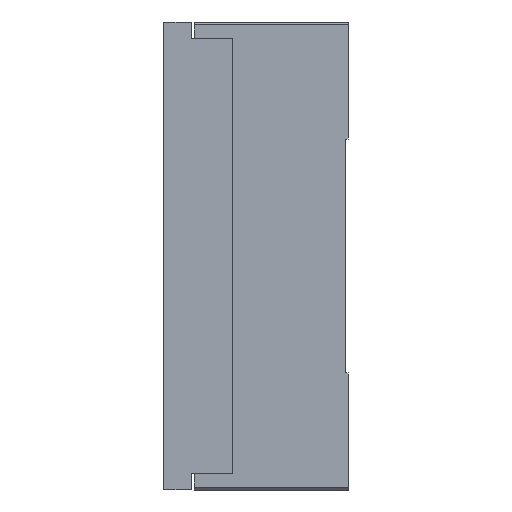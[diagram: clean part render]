
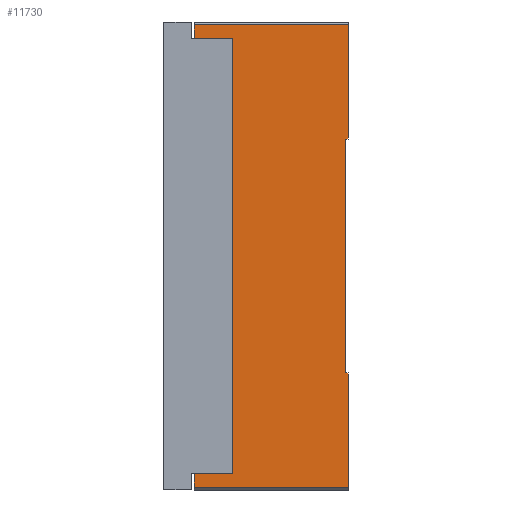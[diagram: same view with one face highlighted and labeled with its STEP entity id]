
A CAD part, left-side view. The second image highlights one B-rep face of the part: STEP entity #11730.
In plain terms, the highlighted planar face has unit normal (-1, 0, 0).
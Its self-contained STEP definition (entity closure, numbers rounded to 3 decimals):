
#22 = VERTEX_POINT ( 'NONE', #16990 ) ;
#519 = LINE ( 'NONE', #2696, #25784 ) ;
#847 = VECTOR ( 'NONE', #24098, 1000. ) ;
#1894 = FACE_OUTER_BOUND ( 'NONE', #25948, .T. ) ;
#2320 = DIRECTION ( 'NONE',  ( 0., 0., -1. ) ) ;
#2322 = ORIENTED_EDGE ( 'NONE', *, *, #39132, .F. ) ;
#2410 = CARTESIAN_POINT ( 'NONE',  ( -132.5, 42., 69. ) ) ;
#2642 = CARTESIAN_POINT ( 'NONE',  ( -132.5, 42., -79. ) ) ;
#2696 = CARTESIAN_POINT ( 'NONE',  ( -132.5, 56., 84. ) ) ;
#3196 = AXIS2_PLACEMENT_3D ( 'NONE', #27997, #27921, #27868 ) ;
#3669 = LINE ( 'NONE', #13778, #20327 ) ;
#4273 = LINE ( 'NONE', #23936, #847 ) ;
#4466 = DIRECTION ( 'NONE',  ( 0., -1., 0. ) ) ;
#4651 = VECTOR ( 'NONE', #15386, 1000. ) ;
#4965 = EDGE_CURVE ( 'NONE', #36391, #26793, #32420, .T. ) ;
#5178 = VECTOR ( 'NONE', #40486, 1000. ) ;
#5656 = VECTOR ( 'NONE', #31944, 1000. ) ;
#5660 = LINE ( 'NONE', #12040, #4651 ) ;
#5829 = EDGE_CURVE ( 'NONE', #15813, #37193, #14084, .T. ) ;
#5959 = EDGE_CURVE ( 'NONE', #29199, #19576, #16702, .T. ) ;
#6005 = DIRECTION ( 'NONE',  ( 0., 1., 0. ) ) ;
#6533 = CARTESIAN_POINT ( 'NONE',  ( -132.5, 1., -42.5 ) ) ;
#8032 = EDGE_CURVE ( 'NONE', #8791, #37193, #4273, .T. ) ;
#8791 = VERTEX_POINT ( 'NONE', #17520 ) ;
#9115 = CARTESIAN_POINT ( 'NONE',  ( -132.5, 0., -84. ) ) ;
#9811 = CARTESIAN_POINT ( 'NONE',  ( -132.5, 56., 79. ) ) ;
#10227 = CARTESIAN_POINT ( 'NONE',  ( -132.5, 56., 79. ) ) ;
#10394 = DIRECTION ( 'NONE',  ( 0., 0., 1. ) ) ;
#10821 = LINE ( 'NONE', #31873, #12449 ) ;
#11373 = VECTOR ( 'NONE', #33122, 1000. ) ;
#11566 = EDGE_CURVE ( 'NONE', #27114, #26793, #10821, .T. ) ;
#11730 = ADVANCED_FACE ( 'NONE', ( #1894 ), #27962, .T. ) ;
#12040 = CARTESIAN_POINT ( 'NONE',  ( -132.5, 1., -42.5 ) ) ;
#12449 = VECTOR ( 'NONE', #31736, 1000. ) ;
#13778 = CARTESIAN_POINT ( 'NONE',  ( -132.5, 56., 85. ) ) ;
#14084 = LINE ( 'NONE', #9115, #14439 ) ;
#14167 = LINE ( 'NONE', #24092, #5178 ) ;
#14439 = VECTOR ( 'NONE', #4466, 1000. ) ;
#14893 = CARTESIAN_POINT ( 'NONE',  ( -132.5, 0., -84. ) ) ;
#15386 = DIRECTION ( 'NONE',  ( 0., 0., -1. ) ) ;
#15620 = ORIENTED_EDGE ( 'NONE', *, *, #11566, .F. ) ;
#15813 = VERTEX_POINT ( 'NONE', #31038 ) ;
#15815 = ORIENTED_EDGE ( 'NONE', *, *, #37055, .T. ) ;
#16702 = LINE ( 'NONE', #2410, #17602 ) ;
#16990 = CARTESIAN_POINT ( 'NONE',  ( -132.5, 56., 84. ) ) ;
#17071 = ORIENTED_EDGE ( 'NONE', *, *, #31689, .T. ) ;
#17520 = CARTESIAN_POINT ( 'NONE',  ( -132.5, 0., -42.5 ) ) ;
#17602 = VECTOR ( 'NONE', #2320, 1000. ) ;
#17976 = VERTEX_POINT ( 'NONE', #6533 ) ;
#18829 = DIRECTION ( 'NONE',  ( 0., 0., 1. ) ) ;
#19165 = ORIENTED_EDGE ( 'NONE', *, *, #5829, .T. ) ;
#19529 = ORIENTED_EDGE ( 'NONE', *, *, #35088, .F. ) ;
#19576 = VERTEX_POINT ( 'NONE', #2642 ) ;
#20203 = LINE ( 'NONE', #9811, #11373 ) ;
#20327 = VECTOR ( 'NONE', #10394, 1000. ) ;
#20453 = ORIENTED_EDGE ( 'NONE', *, *, #4965, .T. ) ;
#20501 = VECTOR ( 'NONE', #18829, 1000. ) ;
#20730 = ORIENTED_EDGE ( 'NONE', *, *, #5959, .T. ) ;
#22403 = CARTESIAN_POINT ( 'NONE',  ( -132.5, 1., 42.5 ) ) ;
#23936 = CARTESIAN_POINT ( 'NONE',  ( -132.5, 0., 85. ) ) ;
#24092 = CARTESIAN_POINT ( 'NONE',  ( -132.5, 56., -79. ) ) ;
#24098 = DIRECTION ( 'NONE',  ( 0., 0., -1. ) ) ;
#24272 = ORIENTED_EDGE ( 'NONE', *, *, #8032, .F. ) ;
#25327 = LINE ( 'NONE', #34445, #32040 ) ;
#25784 = VECTOR ( 'NONE', #6005, 1000. ) ;
#25948 = EDGE_LOOP ( 'NONE', ( #20730, #15815, #34928, #19165, #24272, #31399, #2322, #20453, #15620, #28856, #19529, #17071 ) ) ;
#26793 = VERTEX_POINT ( 'NONE', #36467 ) ;
#27114 = VERTEX_POINT ( 'NONE', #29620 ) ;
#27689 = DIRECTION ( 'NONE',  ( 0., -1., 0. ) ) ;
#27868 = DIRECTION ( 'NONE',  ( 0., 0., 1. ) ) ;
#27921 = DIRECTION ( 'NONE',  ( -1., 0., 0. ) ) ;
#27962 = PLANE ( 'NONE',  #3196 ) ;
#27997 = CARTESIAN_POINT ( 'NONE',  ( -132.5, 56., 85. ) ) ;
#28856 = ORIENTED_EDGE ( 'NONE', *, *, #31073, .T. ) ;
#29199 = VERTEX_POINT ( 'NONE', #30155 ) ;
#29620 = CARTESIAN_POINT ( 'NONE',  ( -132.5, 0., 84. ) ) ;
#30155 = CARTESIAN_POINT ( 'NONE',  ( -132.5, 42., 79. ) ) ;
#30188 = LINE ( 'NONE', #31834, #20501 ) ;
#30876 = CARTESIAN_POINT ( 'NONE',  ( -132.5, 56., -79. ) ) ;
#31038 = CARTESIAN_POINT ( 'NONE',  ( -132.5, 56., -84. ) ) ;
#31073 = EDGE_CURVE ( 'NONE', #27114, #22, #519, .T. ) ;
#31399 = ORIENTED_EDGE ( 'NONE', *, *, #38119, .F. ) ;
#31689 = EDGE_CURVE ( 'NONE', #37667, #29199, #20203, .T. ) ;
#31736 = DIRECTION ( 'NONE',  ( 0., 0., -1. ) ) ;
#31834 = CARTESIAN_POINT ( 'NONE',  ( -132.5, 56., 85. ) ) ;
#31873 = CARTESIAN_POINT ( 'NONE',  ( -132.5, 0., 85. ) ) ;
#31944 = DIRECTION ( 'NONE',  ( 0., -1., 0. ) ) ;
#32034 = CARTESIAN_POINT ( 'NONE',  ( -132.5, 1., 42.5 ) ) ;
#32040 = VECTOR ( 'NONE', #27689, 1000. ) ;
#32420 = LINE ( 'NONE', #32034, #5656 ) ;
#33122 = DIRECTION ( 'NONE',  ( 0., -1., 0. ) ) ;
#33774 = VERTEX_POINT ( 'NONE', #30876 ) ;
#34445 = CARTESIAN_POINT ( 'NONE',  ( -132.5, 1., -42.5 ) ) ;
#34928 = ORIENTED_EDGE ( 'NONE', *, *, #38526, .F. ) ;
#35088 = EDGE_CURVE ( 'NONE', #37667, #22, #30188, .T. ) ;
#36391 = VERTEX_POINT ( 'NONE', #22403 ) ;
#36467 = CARTESIAN_POINT ( 'NONE',  ( -132.5, 0., 42.5 ) ) ;
#37055 = EDGE_CURVE ( 'NONE', #19576, #33774, #14167, .T. ) ;
#37193 = VERTEX_POINT ( 'NONE', #14893 ) ;
#37667 = VERTEX_POINT ( 'NONE', #10227 ) ;
#38119 = EDGE_CURVE ( 'NONE', #17976, #8791, #25327, .T. ) ;
#38526 = EDGE_CURVE ( 'NONE', #15813, #33774, #3669, .T. ) ;
#39132 = EDGE_CURVE ( 'NONE', #36391, #17976, #5660, .T. ) ;
#40486 = DIRECTION ( 'NONE',  ( 0., 1., 0. ) ) ;
